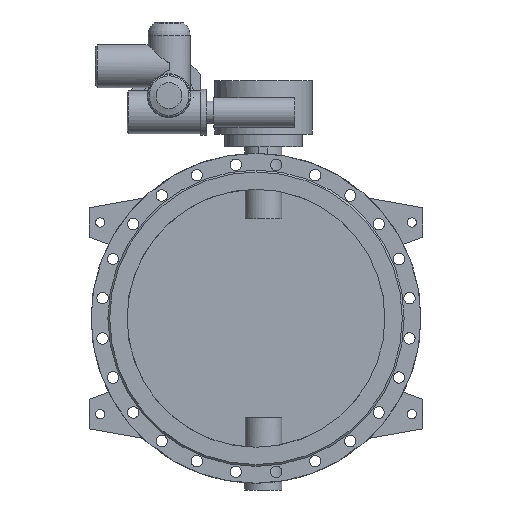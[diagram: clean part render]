
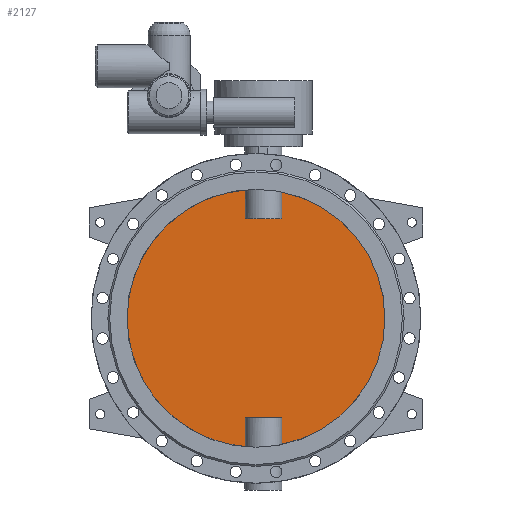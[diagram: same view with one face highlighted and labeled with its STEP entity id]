
A CAD part, front view. The second image highlights one B-rep face of the part: STEP entity #2127.
In plain terms, the highlighted planar face has unit normal (0, -1, 0).
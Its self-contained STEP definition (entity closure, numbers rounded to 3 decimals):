
#2127=ADVANCED_FACE('',(#4297),#4299,.F.);
#4297=FACE_BOUND('',#4298,.T.);
#4298=EDGE_LOOP('',(#5261,#5262,#5263,#5264,#5265,#5266,#5267,#5268));
#4299=PLANE('',#4300);
#4300=AXIS2_PLACEMENT_3D('',#4301,#4302,#4303);
#4301=CARTESIAN_POINT('',(0.,-5.,0.));
#4302=DIRECTION('',(0.,1.,0.));
#4303=DIRECTION('',(1.,0.,0.));
#5261=ORIENTED_EDGE('',*,*,#5744,.T.);
#5262=ORIENTED_EDGE('',*,*,#5749,.T.);
#5263=ORIENTED_EDGE('',*,*,#5750,.T.);
#5264=ORIENTED_EDGE('',*,*,#5751,.T.);
#5265=ORIENTED_EDGE('',*,*,#5746,.T.);
#5266=ORIENTED_EDGE('',*,*,#5752,.T.);
#5267=ORIENTED_EDGE('',*,*,#5753,.T.);
#5268=ORIENTED_EDGE('',*,*,#5754,.T.);
#5744=EDGE_CURVE('',#6593,#6594,#6595,.F.);
#5746=EDGE_CURVE('',#6598,#6596,#6599,.F.);
#5749=EDGE_CURVE('',#6594,#6603,#6604,.T.);
#5750=EDGE_CURVE('',#6603,#6605,#6606,.F.);
#5751=EDGE_CURVE('',#6605,#6598,#6607,.F.);
#5752=EDGE_CURVE('',#6596,#6608,#6609,.F.);
#5753=EDGE_CURVE('',#6608,#6610,#6611,.F.);
#5754=EDGE_CURVE('',#6610,#6593,#6612,.T.);
#6593=VERTEX_POINT('',#10619);
#6594=VERTEX_POINT('',#10620);
#6595=CIRCLE('',#10621,350.);
#6596=VERTEX_POINT('',#10625);
#6598=VERTEX_POINT('',#10667);
#6599=CIRCLE('',#10668,350.);
#6603=VERTEX_POINT('',#10786);
#6604=LINE('',#10787,#10788);
#6605=VERTEX_POINT('',#10790);
#6606=LINE('',#10791,#10792);
#6607=LINE('',#10794,#10795);
#6608=VERTEX_POINT('',#10797);
#6609=LINE('',#10798,#10799);
#6610=VERTEX_POINT('',#10801);
#6611=LINE('',#10802,#10803);
#6612=LINE('',#10805,#10806);
#10619=CARTESIAN_POINT('',(69.749,-5.,-342.98));
#10620=CARTESIAN_POINT('',(69.749,-5.,342.98));
#10621=AXIS2_PLACEMENT_3D('',#10622,#10623,#10624);
#10622=CARTESIAN_POINT('',(0.,-5.,0.));
#10623=DIRECTION('',(0.,1.,0.));
#10624=DIRECTION('',(0.199,0.,0.98));
#10625=CARTESIAN_POINT('',(-29.749,-5.,-348.733));
#10667=CARTESIAN_POINT('',(-29.749,-5.,348.733));
#10668=AXIS2_PLACEMENT_3D('',#10669,#10670,#10671);
#10669=CARTESIAN_POINT('',(0.,-5.,0.));
#10670=DIRECTION('',(0.,1.,0.));
#10671=DIRECTION('',(-0.085,0.,-0.996));
#10786=CARTESIAN_POINT('',(69.749,-5.,270.));
#10787=CARTESIAN_POINT('',(69.749,-5.,342.98));
#10788=VECTOR('',#10789,1.);
#10789=DIRECTION('',(0.,0.,-1.));
#10790=CARTESIAN_POINT('',(-29.749,-5.,270.));
#10791=CARTESIAN_POINT('',(-29.749,-5.,270.));
#10792=VECTOR('',#10793,1.);
#10793=DIRECTION('',(1.,0.,0.));
#10794=CARTESIAN_POINT('',(-29.749,-5.,348.733));
#10795=VECTOR('',#10796,1.);
#10796=DIRECTION('',(0.,0.,-1.));
#10797=CARTESIAN_POINT('',(-29.749,-5.,-270.));
#10798=CARTESIAN_POINT('',(-29.749,-5.,-270.));
#10799=VECTOR('',#10800,1.);
#10800=DIRECTION('',(0.,0.,-1.));
#10801=CARTESIAN_POINT('',(69.749,-5.,-270.));
#10802=CARTESIAN_POINT('',(69.749,-5.,-270.));
#10803=VECTOR('',#10804,1.);
#10804=DIRECTION('',(-1.,0.,0.));
#10805=CARTESIAN_POINT('',(69.749,-5.,-270.));
#10806=VECTOR('',#10807,1.);
#10807=DIRECTION('',(0.,0.,-1.));
